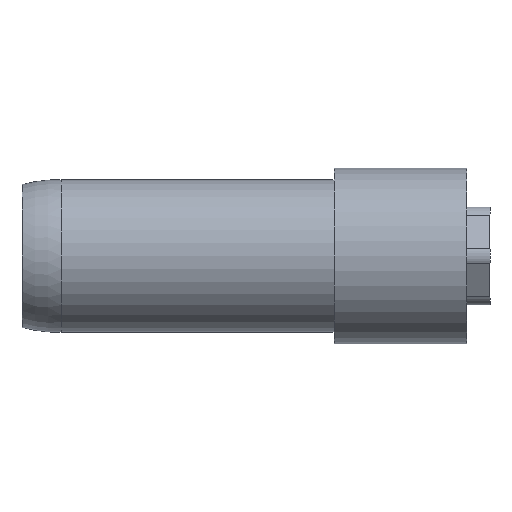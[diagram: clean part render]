
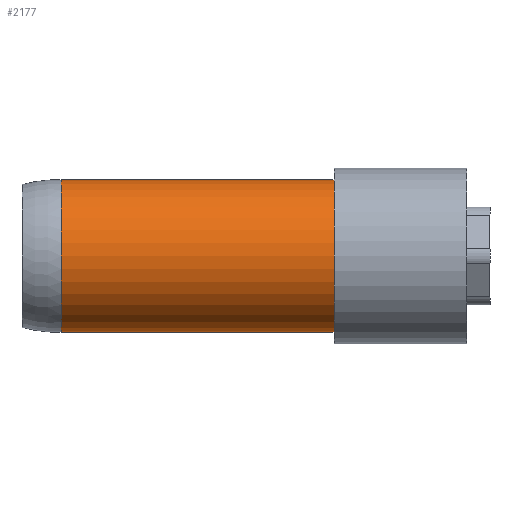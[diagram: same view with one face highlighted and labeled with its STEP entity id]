
A CAD part, front view. The second image highlights one B-rep face of the part: STEP entity #2177.
In plain terms, the highlighted cylindrical face has radius 12.446 mm (diameter 24.892 mm), a partial arc.
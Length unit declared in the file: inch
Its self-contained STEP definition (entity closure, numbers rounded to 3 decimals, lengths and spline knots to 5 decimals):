
#227 = ORIENTED_EDGE ( 'NONE', *, *, #1345, .T. ) ;
#253 = AXIS2_PLACEMENT_3D ( 'NONE', #1531, #254, #1742 ) ;
#254 = DIRECTION ( 'NONE',  ( -1., 0., 0. ) ) ;
#471 = CARTESIAN_POINT ( 'NONE',  ( -2.25, 0., 0.49 ) ) ;
#475 = EDGE_CURVE ( 'NONE', #2726, #2729, #1057, .T. ) ;
#579 = AXIS2_PLACEMENT_3D ( 'NONE', #2320, #1060, #2540 ) ;
#648 = AXIS2_PLACEMENT_3D ( 'NONE', #1464, #1274, #1483 ) ;
#706 = CIRCLE ( 'NONE', #253, 0.49 ) ;
#871 = VECTOR ( 'NONE', #1478, 39.37008 ) ;
#1009 = VERTEX_POINT ( 'NONE', #2077 ) ;
#1057 = CIRCLE ( 'NONE', #579, 0.49 ) ;
#1060 = DIRECTION ( 'NONE',  ( -1., 0., 0. ) ) ;
#1186 = LINE ( 'NONE', #471, #2362 ) ;
#1218 = CYLINDRICAL_SURFACE ( 'NONE', #648, 0.49 ) ;
#1229 = CARTESIAN_POINT ( 'NONE',  ( -2., 0., -0.49 ) ) ;
#1274 = DIRECTION ( 'NONE',  ( -1., 0., 0. ) ) ;
#1345 = EDGE_CURVE ( 'NONE', #1009, #2729, #1186, .T. ) ;
#1464 = CARTESIAN_POINT ( 'NONE',  ( -2.25, 0., 0. ) ) ;
#1478 = DIRECTION ( 'NONE',  ( -1., 0., 0. ) ) ;
#1483 = DIRECTION ( 'NONE',  ( 0., 0., 1. ) ) ;
#1531 = CARTESIAN_POINT ( 'NONE',  ( -0.25, 0., 0. ) ) ;
#1651 = CARTESIAN_POINT ( 'NONE',  ( -2., 0., 0.49 ) ) ;
#1742 = DIRECTION ( 'NONE',  ( 0., 0., 1. ) ) ;
#1751 = ORIENTED_EDGE ( 'NONE', *, *, #2509, .F. ) ;
#1762 = FACE_OUTER_BOUND ( 'NONE', #2492, .T. ) ;
#1815 = EDGE_CURVE ( 'NONE', #2020, #1009, #706, .T. ) ;
#1946 = DIRECTION ( 'NONE',  ( -1., 0., 0. ) ) ;
#2020 = VERTEX_POINT ( 'NONE', #2086 ) ;
#2077 = CARTESIAN_POINT ( 'NONE',  ( -0.25, 0., 0.49 ) ) ;
#2086 = CARTESIAN_POINT ( 'NONE',  ( -0.25, 0., -0.49 ) ) ;
#2146 = ORIENTED_EDGE ( 'NONE', *, *, #1815, .T. ) ;
#2177 = ADVANCED_FACE ( 'NONE', ( #1762 ), #1218, .T. ) ;
#2320 = CARTESIAN_POINT ( 'NONE',  ( -2., 0., 0. ) ) ;
#2362 = VECTOR ( 'NONE', #1946, 39.37008 ) ;
#2492 = EDGE_LOOP ( 'NONE', ( #1751, #2146, #227, #2731 ) ) ;
#2509 = EDGE_CURVE ( 'NONE', #2020, #2726, #2561, .T. ) ;
#2532 = CARTESIAN_POINT ( 'NONE',  ( -2.25, 0., -0.49 ) ) ;
#2540 = DIRECTION ( 'NONE',  ( 0., 0., 1. ) ) ;
#2561 = LINE ( 'NONE', #2532, #871 ) ;
#2726 = VERTEX_POINT ( 'NONE', #1229 ) ;
#2729 = VERTEX_POINT ( 'NONE', #1651 ) ;
#2731 = ORIENTED_EDGE ( 'NONE', *, *, #475, .F. ) ;
